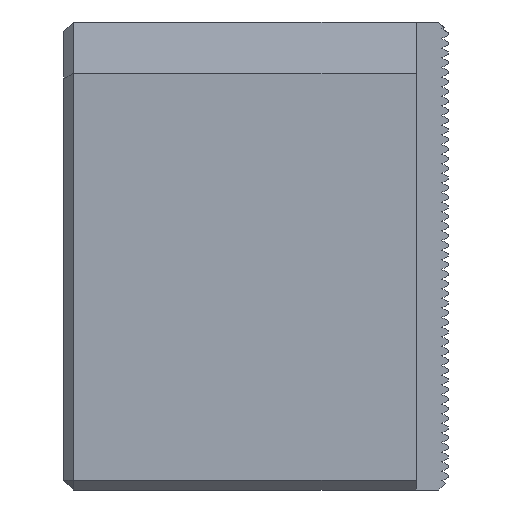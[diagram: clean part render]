
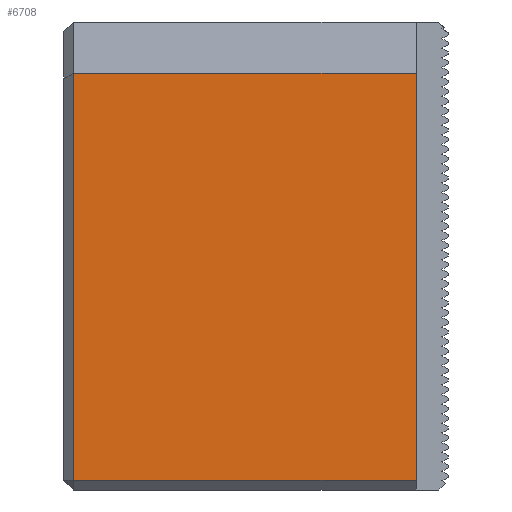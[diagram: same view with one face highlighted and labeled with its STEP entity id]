
A CAD part, left-side view. The second image highlights one B-rep face of the part: STEP entity #6708.
In plain terms, the highlighted planar face has unit normal (-1, 0, 0).
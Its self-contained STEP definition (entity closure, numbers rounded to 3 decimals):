
#364=FACE_OUTER_BOUND('',#696,.T.);
#696=EDGE_LOOP('',(#6059,#6060,#6061,#6062));
#847=LINE('',#8992,#1787);
#1628=LINE('',#10573,#2568);
#1629=LINE('',#10575,#2569);
#1636=LINE('',#10595,#2576);
#1787=VECTOR('',#7226,10.);
#2568=VECTOR('',#8651,10.);
#2569=VECTOR('',#8654,10.);
#2576=VECTOR('',#8685,10.);
#2726=VERTEX_POINT('',#8989);
#2727=VERTEX_POINT('',#8991);
#3204=VERTEX_POINT('',#10563);
#3205=VERTEX_POINT('',#10569);
#3357=EDGE_CURVE('',#2727,#2726,#847,.T.);
#4149=EDGE_CURVE('',#2727,#3205,#1628,.T.);
#4150=EDGE_CURVE('',#3205,#3204,#1629,.T.);
#4158=EDGE_CURVE('',#2726,#3204,#1636,.T.);
#6059=ORIENTED_EDGE('',*,*,#3357,.T.);
#6060=ORIENTED_EDGE('',*,*,#4158,.T.);
#6061=ORIENTED_EDGE('',*,*,#4150,.F.);
#6062=ORIENTED_EDGE('',*,*,#4149,.F.);
#6382=PLANE('',#7069);
#6708=ADVANCED_FACE('',(#364),#6382,.T.);
#7069=AXIS2_PLACEMENT_3D('',#10596,#8686,#8687);
#7226=DIRECTION('',(0.,0.,1.));
#8651=DIRECTION('',(0.,1.,0.));
#8654=DIRECTION('',(0.,0.,1.));
#8685=DIRECTION('',(0.,1.,0.));
#8686=DIRECTION('center_axis',(-1.,0.,0.));
#8687=DIRECTION('ref_axis',(0.,0.,1.));
#8989=CARTESIAN_POINT('',(-29.75,5.,28.5));
#8991=CARTESIAN_POINT('',(-29.75,5.,-35.));
#8992=CARTESIAN_POINT('',(-29.75,5.,-21.907));
#10563=CARTESIAN_POINT('',(-29.75,58.5,28.5));
#10569=CARTESIAN_POINT('',(-29.75,58.5,-35.));
#10573=CARTESIAN_POINT('',(-29.75,0.,-35.));
#10575=CARTESIAN_POINT('',(-29.75,58.5,-18.25));
#10595=CARTESIAN_POINT('',(-29.75,0.,28.5));
#10596=CARTESIAN_POINT('Origin',(-29.75,0.,-36.5));
